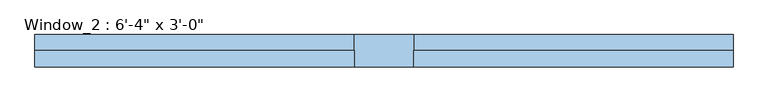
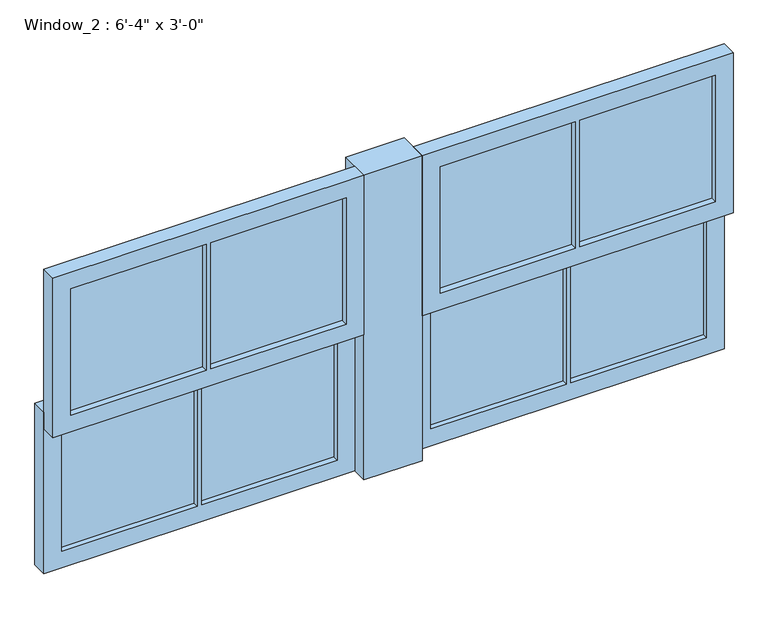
"""IFC4 building model written with IfcOpenShell, lengths in millimetres: window geometry."""

import ifcopenshell
import ifcopenshell.guid

model = None  # the IFC model being written
_history = None  # IfcOwnerHistory: only IFC2X3 demands one
_inside = {}  # id of a spatial element -> (the spatial element, [elements in it])
_under = {}  # id of a project, library or spatial element -> (it, [spatial elements below it])
_declared = {}  # id of a project -> (the project, [libraries it declares])
_typed = {}  # id of a type object -> (the type object, [elements of that type])
_made_of = {}  # id of a material, layer set ... -> (it, [elements and type objects made of it])


def new_model(schema):
    """Start an empty IFC model of exactly this schema.

    Asked for "IFC4X3", IfcOpenShell would pick the latest addendum, in which some entities
    have other attributes; the version numbers below select the first issue.
    IFC2X3 requires an IfcOwnerHistory on every rooted entity: one is made here for all.
    """
    global model, _history
    if schema == "IFC4X3":
        model = ifcopenshell.file(schema_version=(4, 3, 0, 0))
    else:
        model = ifcopenshell.file(schema=schema)
    _inside.clear()
    _under.clear()
    _declared.clear()
    _typed.clear()
    _made_of.clear()
    _history = None
    if model.schema == "IFC2X3":
        org = make("IfcOrganization", Name="unknown")
        user = make(
            "IfcPersonAndOrganization",
            ThePerson=make("IfcPerson", FamilyName="unknown"),
            TheOrganization=org,
        )
        app = make(
            "IfcApplication",
            ApplicationDeveloper=org,
            Version="unknown",
            ApplicationFullName="unknown",
            ApplicationIdentifier="unknown",
        )
        _history = make(
            "IfcOwnerHistory",
            OwningUser=user,
            OwningApplication=app,
            ChangeAction="ADDED",
            CreationDate=0,
        )
    return model


def make(cls, **values):
    """One entity of the class cls with the attributes given. An attribute that is None is left unset."""
    return model.create_entity(
        cls, **{name: value for name, value in values.items() if value is not None}
    )


def rooted(cls, **values):
    """An entity with a GlobalId (a new one), such as an element, a storey or a relation."""
    return make(cls, GlobalId=ifcopenshell.guid.new(), OwnerHistory=_history, **values)


def si_unit(unit_type, name, prefix=None):
    """IfcSIUnit, for example si_unit("LENGTHUNIT", "METRE", prefix="MILLI")."""
    return make("IfcSIUnit", UnitType=unit_type, Prefix=prefix, Name=name)


def assignment(units):
    """IfcUnitAssignment: the units of a project."""
    return None if units is None else make("IfcUnitAssignment", Units=units)


def point(xyz):
    """IfcCartesianPoint."""
    return None if xyz is None else make("IfcCartesianPoint", Coordinates=xyz)


def direction(xyz):
    """IfcDirection."""
    return None if xyz is None else make("IfcDirection", DirectionRatios=xyz)


def frame(location, z_axis=None, x_axis=None):
    """IfcAxis2Placement3D, a coordinate frame: its origin and axes. An axis left out is left unset."""
    return make(
        "IfcAxis2Placement3D",
        Location=point(location),
        Axis=direction(z_axis),
        RefDirection=direction(x_axis),
    )


def origin():
    """The frame at (0, 0, 0) with its axes left unset."""
    return frame((0.0, 0.0, 0.0))


def place(relative_to, where):
    """IfcLocalPlacement: puts the frame where relative to a parent placement (None: the world)."""
    return make(
        "IfcLocalPlacement", PlacementRelTo=relative_to, RelativePlacement=where
    )


def context(
    kind, dimensions, precision=None, world=None, true_north=None, identifier=None
):
    """IfcGeometricRepresentationContext, for example the 3D "Model" context."""
    return make(
        "IfcGeometricRepresentationContext",
        ContextIdentifier=identifier,
        ContextType=kind,
        CoordinateSpaceDimension=dimensions,
        Precision=precision,
        WorldCoordinateSystem=world,
        TrueNorth=true_north,
    )


def project(units=None, contexts=None):
    """IfcProject with its units and contexts."""
    return rooted(
        "IfcProject",
        Name="project",
        RepresentationContexts=contexts,
        UnitsInContext=assignment(units),
    )


def spatial(cls, under=None, at=None, **own):
    """A site, building, storey or space (cls), placed at a placement, below another one or the project."""
    s = rooted(cls, ObjectPlacement=at, **own)
    if under is not None:
        _under.setdefault(under.id(), (under, []))[1].append(s)
    return s


def polyline(points):
    """IfcPolyline through the points."""
    return make("IfcPolyline", Points=[point(p) for p in points])


def outline(outer, holes=None, kind="AREA"):
    """IfcArbitraryClosedProfileDef: a profile drawn as a closed curve; with holes, ...WithVoids."""
    if holes is None:
        return make("IfcArbitraryClosedProfileDef", ProfileType=kind, OuterCurve=outer)
    return make(
        "IfcArbitraryProfileDefWithVoids",
        ProfileType=kind,
        OuterCurve=outer,
        InnerCurves=holes,
    )


def extrude(swept, where, along, depth):
    """IfcExtrudedAreaSolid: the profile swept, set in the frame where, extruded along a direction by depth."""
    return make(
        "IfcExtrudedAreaSolid",
        SweptArea=swept,
        Position=where,
        ExtrudedDirection=direction(along),
        Depth=depth,
    )


def shape(context_of_items, identifier, shape_type, items):
    """IfcShapeRepresentation: the items that make up one representation, for example the "Body"."""
    return make(
        "IfcShapeRepresentation",
        ContextOfItems=context_of_items,
        RepresentationIdentifier=identifier,
        RepresentationType=shape_type,
        Items=items,
    )


def source(mapping_origin, context_of_items, identifier, shape_type, items):
    """IfcRepresentationMap: a shape defined once, which mapped items show again and again."""
    return make(
        "IfcRepresentationMap",
        MappingOrigin=mapping_origin,
        MappedRepresentation=shape(context_of_items, identifier, shape_type, items),
    )


def transform(
    local_origin,
    x_axis=None,
    y_axis=None,
    z_axis=None,
    scale=None,
    scale2=None,
    scale3=None,
    uniform=True,
):
    """IfcCartesianTransformationOperator3D, or its non-uniform kind. x_axis, y_axis, z_axis: its Axis1, 2, 3."""
    if uniform:
        return make(
            "IfcCartesianTransformationOperator3D",
            Axis1=direction(x_axis),
            Axis2=direction(y_axis),
            LocalOrigin=point(local_origin),
            Scale=scale,
            Axis3=direction(z_axis),
        )
    return make(
        "IfcCartesianTransformationOperator3DnonUniform",
        Axis1=direction(x_axis),
        Axis2=direction(y_axis),
        LocalOrigin=point(local_origin),
        Scale=scale,
        Axis3=direction(z_axis),
        Scale2=scale2,
        Scale3=scale3,
    )


def mapped(mapping_source, mapping_target):
    """IfcMappedItem: shows the shape of a source again, moved by a transform."""
    return make(
        "IfcMappedItem", MappingSource=mapping_source, MappingTarget=mapping_target
    )


def made_of(thing, what):
    """Note that an element or type object is made of a material, layer set ...; save() writes the relation."""
    if what is not None:
        _made_of.setdefault(what.id(), (what, []))[1].append(thing)
    return thing


def element(
    cls,
    number,
    at=None,
    inside=None,
    cuts=None,
    type_object=None,
    material=None,
    context=None,
    identifier="Body",
    shape_type=None,
    held_by="IfcProductDefinitionShape",
    body=None,
    shapes=None,
    **own,
):
    """One element of the class cls, such as IfcWall. Its Tag is "e" and its number.

    at: its placement. inside: the storey or other place that contains it. cuts: it is an
    opening in that element (IfcRelVoidsElement). A single representation is given by context,
    identifier, shape_type and body (its items); several are given by shapes. held_by: the class
    of the entity that holds the representations. save() writes the other relations.
    """
    e = rooted(cls, Tag="e%d" % number, ObjectPlacement=at, **own)
    if body is not None:
        shapes = [shape(context, identifier, shape_type, body)]
    if shapes is not None:
        e.Representation = make(held_by, Representations=shapes)
    if inside is not None:
        _inside.setdefault(inside.id(), (inside, []))[1].append(e)
    if cuts is not None:
        rooted(
            "IfcRelVoidsElement", RelatingBuildingElement=cuts, RelatedOpeningElement=e
        )
    if type_object is not None:
        _typed.setdefault(type_object.id(), (type_object, []))[1].append(e)
    return made_of(e, material)


def aggregate(whole, parts):
    """IfcRelAggregates: a whole, such as a stair, and the parts it consists of."""
    return rooted("IfcRelAggregates", RelatingObject=whole, RelatedObjects=parts)


def save(model, path):
    """Write the relations noted so far, then the file.

    IfcRelAggregates (storeys below a building ...), IfcRelContainedInSpatialStructure (elements
    in a storey), IfcRelDefinesByType, IfcRelAssociatesMaterial and IfcRelDeclares: one each for
    every whole, place, type object, material and project.
    """
    for whole, parts in _under.values():
        aggregate(whole, parts)
    for where, things in _inside.values():
        rooted(
            "IfcRelContainedInSpatialStructure",
            RelatedElements=things,
            RelatingStructure=where,
        )
    for kind, things in _typed.values():
        rooted("IfcRelDefinesByType", RelatedObjects=things, RelatingType=kind)
    for what, things in _made_of.values():
        rooted("IfcRelAssociatesMaterial", RelatedObjects=things, RelatingMaterial=what)
    for by, libraries in _declared.values():
        rooted("IfcRelDeclares", RelatingContext=by, RelatedDefinitions=libraries)
    model.write(path)


def window_edb563cb(model_context):
    return source(origin(), model_context, "Body", "SweptSolid", [
        extrude(outline(polyline([(-530.225, -6.35), (-530.225, -13.2853592), (-915.2, -13.2853592), (-915.2, -6.35), (-530.225, -6.35)])), frame((0.0, 0.0, 1323.175), z_axis=(0.0, 0.0, 1.0), x_axis=(1.0, 0.0, 0.0)), (0.0, 0.0, 1.0), 379.425),
        extrude(outline(polyline([(915.2, -6.35), (915.2, -13.2853592), (530.225, -13.2853592), (530.225, -6.35), (915.2, -6.35)])), frame((0.0, 0.0, 1323.175), z_axis=(0.0, 0.0, 1.0), x_axis=(1.0, 0.0, 0.0)), (0.0, 0.0, 1.0), 379.425),
        extrude(outline(polyline([(517.525, -6.35), (517.525, -13.2853592), (133.35, -13.2853592), (133.35, -6.35), (517.525, -6.35)])), frame((0.0, 0.0, 1323.175), z_axis=(0.0, 0.0, 1.0), x_axis=(1.0, 0.0, 0.0)), (0.0, 0.0, 1.0), 379.425),
        extrude(outline(polyline([(-133.35, -6.35), (-133.35, -13.2853592), (-517.525, -13.2853592), (-517.525, -6.35), (-133.35, -6.35)])), frame((0.0, 0.0, 1323.175), z_axis=(0.0, 0.0, 1.0), x_axis=(1.0, 0.0, 0.0)), (0.0, 0.0, 1.0), 379.425),
        extrude(outline(polyline([(1752.6, 82.55), (1273.175, 82.55), (1273.175, 965.2), (1752.6, 965.2), (1752.6, 82.55)]), holes=[polyline([(1702.6, 530.225), (1702.6, 915.2), (1323.175, 915.2), (1323.175, 530.225), (1702.6, 530.225)]), polyline([(1702.6, 133.35), (1702.6, 517.525), (1323.175, 517.525), (1323.175, 133.35), (1702.6, 133.35)])]), frame((0.0, -31.75, 0.0), z_axis=(0.0, 1.0, 0.0), x_axis=(0.0, 0.0, 1.0)), (0.0, 0.0, 1.0), 44.45),
        extrude(outline(polyline([(1273.175, -965.2), (1273.175, -82.55), (1752.6, -82.55), (1752.6, -965.2), (1273.175, -965.2)]), holes=[polyline([(1323.175, -915.2), (1702.6, -915.2), (1702.6, -530.225), (1323.175, -530.225), (1323.175, -915.2)]), polyline([(1323.175, -133.35), (1323.175, -517.525), (1702.6, -517.525), (1702.6, -133.35), (1323.175, -133.35)])]), frame((0.0, -31.75, 0.0), z_axis=(0.0, 1.0, 0.0), x_axis=(0.0, 0.0, 1.0)), (0.0, 0.0, 1.0), 44.45),
        extrude(outline(polyline([(-82.55, 57.15), (82.55, 57.15), (82.55, -31.75), (-82.55, -31.75), (-82.55, 57.15)])), frame((0.0, 0.0, 838.2), z_axis=(0.0, 0.0, 1.0), x_axis=(1.0, 0.0, 0.0)), (0.0, 0.0, 1.0), 914.4),
        extrude(outline(polyline([(530.225, 28.575), (530.225, 41.275), (915.2, 41.275), (915.2, 28.575), (530.225, 28.575)])), frame((0.0, 0.0, 888.2), z_axis=(0.0, 0.0, 1.0), x_axis=(1.0, 0.0, 0.0)), (0.0, 0.0, 1.0), 384.975),
        extrude(outline(polyline([(-915.2, 28.575), (-915.2, 41.275), (-530.225, 41.275), (-530.225, 28.575), (-915.2, 28.575)])), frame((0.0, 0.0, 888.2), z_axis=(0.0, 0.0, 1.0), x_axis=(1.0, 0.0, 0.0)), (0.0, 0.0, 1.0), 384.975),
        extrude(outline(polyline([(-517.525, 28.575), (-517.525, 41.275), (-133.35, 41.275), (-133.35, 28.575), (-517.525, 28.575)])), frame((0.0, 0.0, 888.2), z_axis=(0.0, 0.0, 1.0), x_axis=(1.0, 0.0, 0.0)), (0.0, 0.0, 1.0), 384.975),
        extrude(outline(polyline([(133.35, 28.575), (133.35, 41.275), (517.525, 41.275), (517.525, 28.575), (133.35, 28.575)])), frame((0.0, 0.0, 888.2), z_axis=(0.0, 0.0, 1.0), x_axis=(1.0, 0.0, 0.0)), (0.0, 0.0, 1.0), 384.975),
        extrude(outline(polyline([(1323.175, 82.55), (838.2, 82.55), (838.2, 965.2), (1323.175, 965.2), (1323.175, 82.55)]), holes=[polyline([(1273.175, 530.225), (1273.175, 915.2), (888.2, 915.2), (888.2, 530.225), (1273.175, 530.225)]), polyline([(1273.175, 133.35), (1273.175, 517.525), (888.2, 517.525), (888.2, 133.35), (1273.175, 133.35)])]), frame((0.0, 12.7, 0.0), z_axis=(0.0, 1.0, 0.0), x_axis=(0.0, 0.0, 1.0)), (0.0, 0.0, 1.0), 44.45),
        extrude(outline(polyline([(838.2, -965.2), (838.2, -82.55), (1323.175, -82.55), (1323.175, -965.2), (838.2, -965.2)]), holes=[polyline([(888.2, -915.2), (1273.175, -915.2), (1273.175, -530.225), (888.2, -530.225), (888.2, -915.2)]), polyline([(888.2, -133.35), (888.2, -517.525), (1273.175, -517.525), (1273.175, -133.35), (888.2, -133.35)])]), frame((0.0, 12.7, 0.0), z_axis=(0.0, 1.0, 0.0), x_axis=(0.0, 0.0, 1.0)), (0.0, 0.0, 1.0), 44.45),
    ])


if __name__ == "__main__":
    model = new_model("IFC4")
    model_context = context("Model", 3, world=origin())
    ifc_project = project(units=[si_unit("LENGTHUNIT", "METRE", prefix="MILLI")], contexts=[model_context])
    site = spatial("IfcSite", under=ifc_project)
    building = spatial("IfcBuilding", under=site)
    placement = place(None, origin())
    window_shape = window_edb563cb(model_context)
    element("IfcWindow", 1, ObjectType="Window_2 : 6'-4\" x 3'-0\"", at=placement, inside=building, context=model_context, shape_type="MappedRepresentation", body=[
        mapped(window_shape, transform((0.0, 0.0, 0.0), x_axis=(1.0, 0.0, 0.0), y_axis=(0.0, 1.0, 0.0), z_axis=(0.0, 0.0, 1.0))),
    ])
    save(model, "model.ifc")
